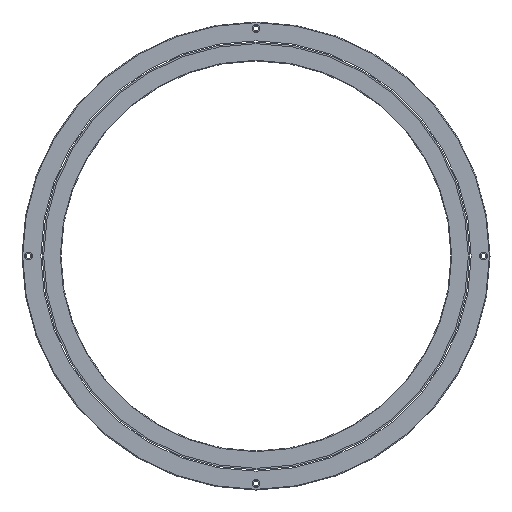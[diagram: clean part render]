
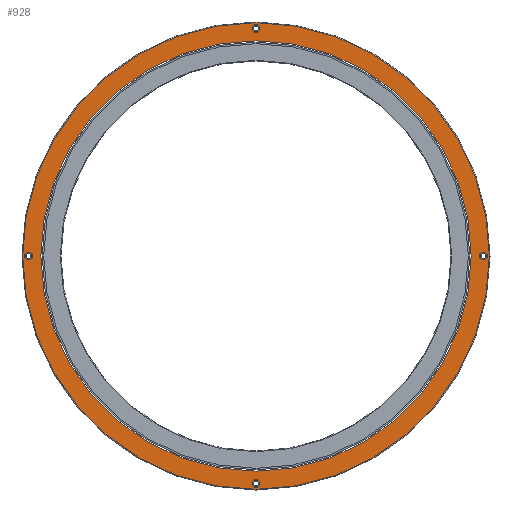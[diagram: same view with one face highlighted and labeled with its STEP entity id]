
A CAD part, front view. The second image highlights one B-rep face of the part: STEP entity #928.
In plain terms, the highlighted planar face has unit normal (0, -1, 0).
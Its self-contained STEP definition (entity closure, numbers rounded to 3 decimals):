
#43=CARTESIAN_POINT('',(0.,0.,0.));
#44=DIRECTION('',(0.,-1.,0.));
#45=DIRECTION('',(-1.,0.,0.));
#46=AXIS2_PLACEMENT_3D('',#43,#44,#45);
#48=CARTESIAN_POINT('',(0.,0.,0.));
#49=DIRECTION('',(0.,1.,0.));
#50=DIRECTION('',(-1.,0.,0.));
#51=AXIS2_PLACEMENT_3D('',#48,#49,#50);
#53=CARTESIAN_POINT('',(-175.,0.,0.));
#54=DIRECTION('',(0.,1.,0.));
#55=DIRECTION('',(1.,0.,0.));
#56=AXIS2_PLACEMENT_3D('',#53,#54,#55);
#58=CARTESIAN_POINT('',(-175.,0.,0.));
#59=DIRECTION('',(0.,1.,0.));
#60=DIRECTION('',(-1.,0.,0.));
#61=AXIS2_PLACEMENT_3D('',#58,#59,#60);
#63=CARTESIAN_POINT('',(0.,0.,175.));
#64=DIRECTION('',(0.,1.,0.));
#65=DIRECTION('',(0.,0.,-1.));
#66=AXIS2_PLACEMENT_3D('',#63,#64,#65);
#68=CARTESIAN_POINT('',(0.,0.,175.));
#69=DIRECTION('',(0.,1.,0.));
#70=DIRECTION('',(0.,0.,1.));
#71=AXIS2_PLACEMENT_3D('',#68,#69,#70);
#73=CARTESIAN_POINT('',(175.,0.,0.));
#74=DIRECTION('',(0.,1.,0.));
#75=DIRECTION('',(-1.,0.,0.));
#76=AXIS2_PLACEMENT_3D('',#73,#74,#75);
#78=CARTESIAN_POINT('',(175.,0.,0.));
#79=DIRECTION('',(0.,1.,0.));
#80=DIRECTION('',(1.,0.,0.));
#81=AXIS2_PLACEMENT_3D('',#78,#79,#80);
#83=CARTESIAN_POINT('',(0.,0.,-175.));
#84=DIRECTION('',(0.,1.,0.));
#85=DIRECTION('',(0.,0.,1.));
#86=AXIS2_PLACEMENT_3D('',#83,#84,#85);
#88=CARTESIAN_POINT('',(0.,0.,-175.));
#89=DIRECTION('',(0.,1.,0.));
#90=DIRECTION('',(0.,0.,-1.));
#91=AXIS2_PLACEMENT_3D('',#88,#89,#90);
#93=CARTESIAN_POINT('',(0.,0.,0.));
#94=DIRECTION('',(0.,1.,0.));
#95=DIRECTION('',(-1.,0.,0.));
#96=AXIS2_PLACEMENT_3D('',#93,#94,#95);
#98=CARTESIAN_POINT('',(0.,0.,0.));
#99=DIRECTION('',(0.,1.,0.));
#100=DIRECTION('',(1.,0.,0.));
#101=AXIS2_PLACEMENT_3D('',#98,#99,#100);
#751=CARTESIAN_POINT('',(-172.,0.,0.));
#752=VERTEX_POINT('',#751);
#753=CARTESIAN_POINT('',(-178.,0.,0.));
#754=VERTEX_POINT('',#753);
#763=CARTESIAN_POINT('',(0.,0.,172.));
#764=VERTEX_POINT('',#763);
#765=CARTESIAN_POINT('',(0.,0.,178.));
#766=VERTEX_POINT('',#765);
#775=CARTESIAN_POINT('',(172.,0.,0.));
#776=VERTEX_POINT('',#775);
#777=CARTESIAN_POINT('',(178.,0.,0.));
#778=VERTEX_POINT('',#777);
#787=CARTESIAN_POINT('',(0.,0.,-172.));
#788=VERTEX_POINT('',#787);
#789=CARTESIAN_POINT('',(0.,0.,-178.));
#790=VERTEX_POINT('',#789);
#808=CARTESIAN_POINT('',(-165.5,0.,0.));
#810=VERTEX_POINT('',#808);
#812=CARTESIAN_POINT('',(165.5,0.,0.));
#814=VERTEX_POINT('',#812);
#827=CARTESIAN_POINT('',(-179.5,0.,0.));
#828=CARTESIAN_POINT('',(179.5,0.,0.));
#829=VERTEX_POINT('',#827);
#830=VERTEX_POINT('',#828);
#889=CARTESIAN_POINT('',(0.,0.,0.));
#890=DIRECTION('',(0.,1.,0.));
#891=DIRECTION('',(1.,0.,0.));
#892=AXIS2_PLACEMENT_3D('',#889,#890,#891);
#893=PLANE('',#892);
#895=ORIENTED_EDGE('',*,*,#894,.T.);
#897=ORIENTED_EDGE('',*,*,#896,.T.);
#898=EDGE_LOOP('',(#895,#897));
#899=FACE_OUTER_BOUND('',#898,.F.);
#900=ORIENTED_EDGE('',*,*,#868,.F.);
#901=ORIENTED_EDGE('',*,*,#884,.F.);
#902=EDGE_LOOP('',(#900,#901));
#903=FACE_BOUND('',#902,.F.);
#905=ORIENTED_EDGE('',*,*,#904,.F.);
#907=ORIENTED_EDGE('',*,*,#906,.F.);
#908=EDGE_LOOP('',(#905,#907));
#909=FACE_BOUND('',#908,.F.);
#911=ORIENTED_EDGE('',*,*,#910,.F.);
#913=ORIENTED_EDGE('',*,*,#912,.F.);
#914=EDGE_LOOP('',(#911,#913));
#915=FACE_BOUND('',#914,.F.);
#917=ORIENTED_EDGE('',*,*,#916,.F.);
#919=ORIENTED_EDGE('',*,*,#918,.F.);
#920=EDGE_LOOP('',(#917,#919));
#921=FACE_BOUND('',#920,.F.);
#923=ORIENTED_EDGE('',*,*,#922,.T.);
#925=ORIENTED_EDGE('',*,*,#924,.F.);
#926=EDGE_LOOP('',(#923,#925));
#927=FACE_BOUND('',#926,.F.);
#47=CIRCLE('',#46,165.5);
#52=CIRCLE('',#51,165.5);
#57=CIRCLE('',#56,3.);
#62=CIRCLE('',#61,3.);
#67=CIRCLE('',#66,3.);
#72=CIRCLE('',#71,3.);
#77=CIRCLE('',#76,3.);
#82=CIRCLE('',#81,3.);
#87=CIRCLE('',#86,3.);
#92=CIRCLE('',#91,3.);
#97=CIRCLE('',#96,179.5);
#102=CIRCLE('',#101,179.5);
#868=EDGE_CURVE('',#752,#754,#57,.T.);
#884=EDGE_CURVE('',#754,#752,#62,.T.);
#894=EDGE_CURVE('',#829,#830,#97,.T.);
#896=EDGE_CURVE('',#830,#829,#102,.T.);
#904=EDGE_CURVE('',#764,#766,#67,.T.);
#906=EDGE_CURVE('',#766,#764,#72,.T.);
#910=EDGE_CURVE('',#776,#778,#77,.T.);
#912=EDGE_CURVE('',#778,#776,#82,.T.);
#916=EDGE_CURVE('',#788,#790,#87,.T.);
#918=EDGE_CURVE('',#790,#788,#92,.T.);
#922=EDGE_CURVE('',#810,#814,#47,.T.);
#924=EDGE_CURVE('',#810,#814,#52,.T.);
#928=ADVANCED_FACE('',(#899,#903,#909,#915,#921,#927),#893,.F.);
